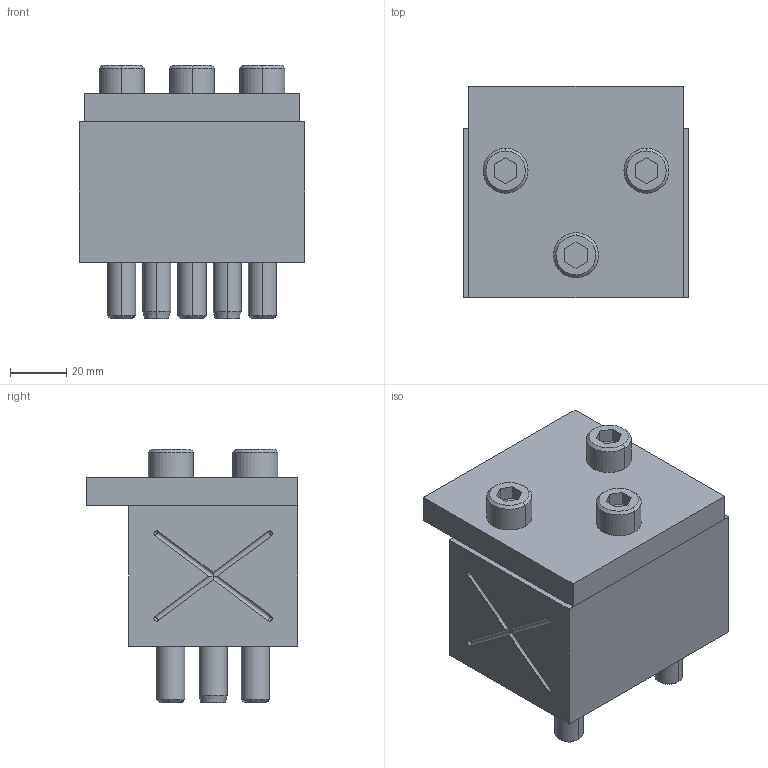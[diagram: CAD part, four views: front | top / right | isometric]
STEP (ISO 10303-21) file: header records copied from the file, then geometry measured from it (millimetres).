
FILE_DESCRIPTION((''),'2;1');
FILE_NAME('','2010-09-29T17:38:58+09:00',('misumi'),(''),'M/STEP i/f 1R2-14','CADmeister v5.1','');
FILE_SCHEMA(('AUTOMOTIVE_DESIGN'));
Length unit declared in the file: millimetre
Products named in the file (1): KEPNZ80-50-10
Bounding box: 80 x 75 x 90 mm (x, y, z)
Volume: 288783.8 mm3; surface area: 66992.2 mm2
Topology: 10 solids, 10 shells, 206 faces, 472 edges, 299 vertices
Faces by surface type: plane 86, cylinder 76, cone 32, revolution 12
Entity records: 8698 total; most frequent: CARTESIAN_POINT 1080, DIRECTION 1060, ORIENTED_EDGE 920, COLOUR_RGB 628, CURVE_STYLE 547, PRESENTATION_STYLE_ASSIGNMENT 537, OVER_RIDING_STYLED_ITEM 527, EDGE_CURVE 460
